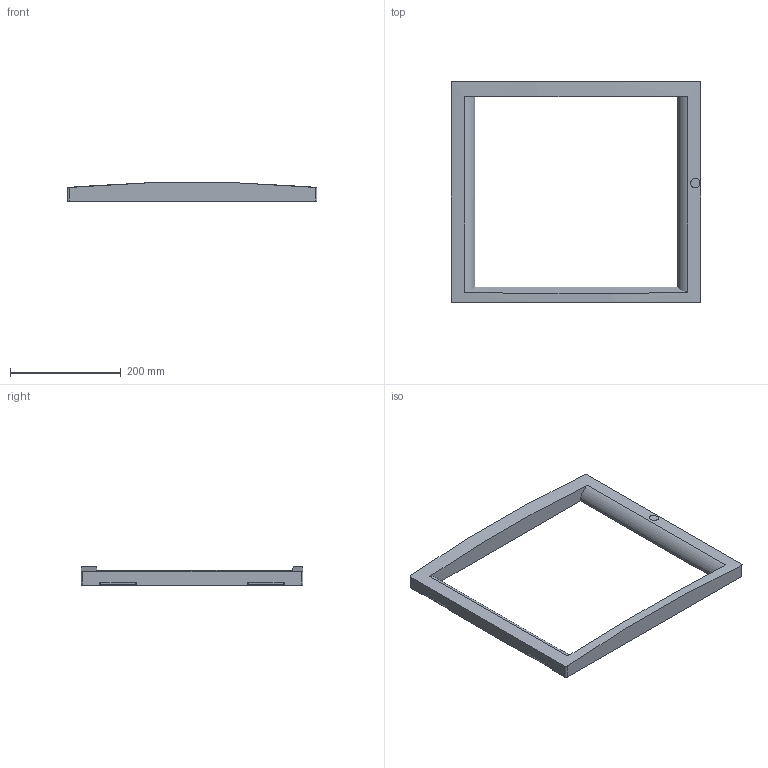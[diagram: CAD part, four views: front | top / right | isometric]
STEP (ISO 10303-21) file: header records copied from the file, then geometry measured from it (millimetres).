
FILE_DESCRIPTION((''),'1');
FILE_NAME('2','2001-04-17T',('jlue'),(''),'PRO/ENGINEER BY PARAMETRIC TECHNOLOGY CORPORATION, 9846','PRO/ENGINEER BY PARAMETRIC TECHNOLOGY CORPORATION, 9846','');
FILE_SCHEMA(('CONFIG_CONTROL_DESIGN'));
Length unit declared in the file: millimetre
Products named in the file (1): 2
Bounding box: 450.35 x 400 x 34.11 mm (x, y, z)
Surface area: 210615.9 mm2 (no closed solid volume)
Topology: 0 solids, 0 shells, 88 faces, 496 edges, 494 vertices
Faces by surface type: plane 66, cylinder 22
Entity records: 2528 total; most frequent: COMPOSITE_CURVE_SEGMENT 494, DIRECTION 455, CARTESIAN_POINT 444, TRIMMED_CURVE 238, VECTOR 197, LINE 197, AXIS2_PLACEMENT_3D 129, CURVE_BOUNDED_SURFACE 88
